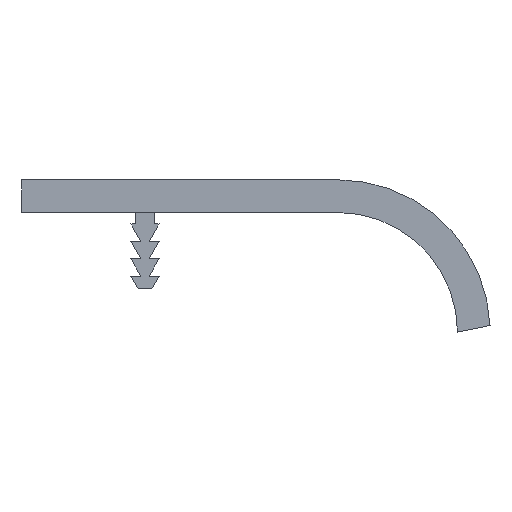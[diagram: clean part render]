
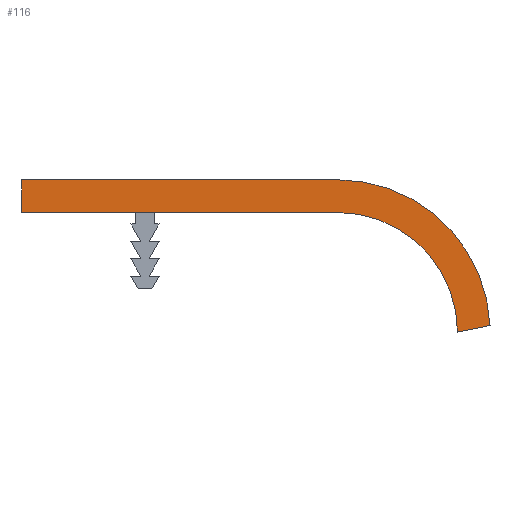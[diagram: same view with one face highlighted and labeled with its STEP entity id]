
A CAD part, left-side view. The second image highlights one B-rep face of the part: STEP entity #116.
In plain terms, the highlighted planar face has unit normal (-1, 0, 0).
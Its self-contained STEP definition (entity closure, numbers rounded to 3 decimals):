
#116 = ADVANCED_FACE( '', ( #226 ), #227, .F. );
#226 = FACE_OUTER_BOUND( '', #328, .T. );
#227 = PLANE( '', #329 );
#328 = EDGE_LOOP( '', ( #537, #538, #539, #540, #541, #542 ) );
#329 = AXIS2_PLACEMENT_3D( '', #543, #544, #545 );
#537 = ORIENTED_EDGE( '', *, *, #718, .F. );
#538 = ORIENTED_EDGE( '', *, *, #675, .F. );
#539 = ORIENTED_EDGE( '', *, *, #701, .F. );
#540 = ORIENTED_EDGE( '', *, *, #719, .T. );
#541 = ORIENTED_EDGE( '', *, *, #720, .F. );
#542 = ORIENTED_EDGE( '', *, *, #663, .F. );
#543 = CARTESIAN_POINT( '', ( 0., -29.013, -11. ) );
#544 = DIRECTION( '', ( 1., 0., 0. ) );
#545 = DIRECTION( '', ( 0., 0., -1. ) );
#663 = EDGE_CURVE( '', #796, #797, #798, .T. );
#675 = EDGE_CURVE( '', #815, #816, #817, .T. );
#701 = EDGE_CURVE( '', #853, #815, #854, .T. );
#718 = EDGE_CURVE( '', #816, #796, #875, .T. );
#719 = EDGE_CURVE( '', #853, #876, #877, .T. );
#720 = EDGE_CURVE( '', #797, #876, #878, .T. );
#796 = VERTEX_POINT( '', #984 );
#797 = VERTEX_POINT( '', #985 );
#798 = CIRCLE( '', #986, 14. );
#815 = VERTEX_POINT( '', #1010 );
#816 = VERTEX_POINT( '', #1011 );
#817 = LINE( '', #1012, #1013 );
#853 = VERTEX_POINT( '', #1067 );
#854 = LINE( '', #1068, #1069 );
#875 = LINE( '', #1100, #1101 );
#876 = VERTEX_POINT( '', #1102 );
#877 = CIRCLE( '', #1103, 11. );
#878 = LINE( '', #1104, #1105 );
#984 = CARTESIAN_POINT( '', ( 0., -29.013, 3. ) );
#985 = CARTESIAN_POINT( '', ( 0., -43., -10.391 ) );
#986 = AXIS2_PLACEMENT_3D( '', #1157, #1158, #1159 );
#1010 = CARTESIAN_POINT( '', ( 0., 0., 0. ) );
#1011 = CARTESIAN_POINT( '', ( 0., 0., 3. ) );
#1012 = CARTESIAN_POINT( '', ( 0., 0., 0. ) );
#1013 = VECTOR( '', #1170, 1000. );
#1067 = CARTESIAN_POINT( '', ( 0., -29.013, 0. ) );
#1068 = CARTESIAN_POINT( '', ( 0., -29.013, 0. ) );
#1069 = VECTOR( '', #1189, 1000. );
#1100 = CARTESIAN_POINT( '', ( 0., 0., 3. ) );
#1101 = VECTOR( '', #1200, 1000. );
#1102 = CARTESIAN_POINT( '', ( 0., -40.013, -11. ) );
#1103 = AXIS2_PLACEMENT_3D( '', #1201, #1202, #1203 );
#1104 = CARTESIAN_POINT( '', ( 0., -43., -10.391 ) );
#1105 = VECTOR( '', #1204, 1000. );
#1157 = CARTESIAN_POINT( '', ( 0., -29.013, -11. ) );
#1158 = DIRECTION( '', ( 1., 0., 0. ) );
#1159 = DIRECTION( '', ( 0., 0., -1. ) );
#1170 = DIRECTION( '', ( 0., 0., 1. ) );
#1189 = DIRECTION( '', ( 0., 1., 0. ) );
#1200 = DIRECTION( '', ( 0., -1., 0. ) );
#1201 = CARTESIAN_POINT( '', ( 0., -29.013, -11. ) );
#1202 = DIRECTION( '', ( 1., 0., 0. ) );
#1203 = DIRECTION( '', ( 0., 0., -1. ) );
#1204 = DIRECTION( '', ( 0., 0.98, -0.2 ) );
